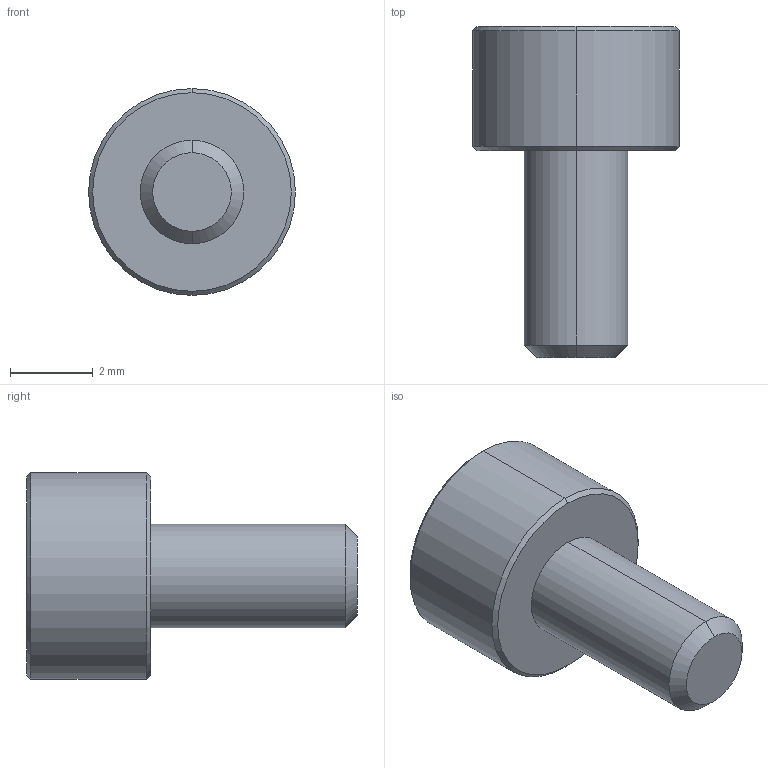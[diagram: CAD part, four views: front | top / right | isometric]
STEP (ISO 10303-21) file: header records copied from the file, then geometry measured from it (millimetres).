
FILE_DESCRIPTION (( 'STEP AP214' ), '1' );
FILE_NAME ('vite M3 x 5.STEP', '2016-02-27T09:45:58', ( '' ), ( '' ), 'SwSTEP 2.0', 'SolidWorks 2012', '' );
FILE_SCHEMA (( 'AUTOMOTIVE_DESIGN' ));
Length unit declared in the file: millimetre
Products named in the file (1): vite M3 x 5
Bounding box: 5 x 8 x 5 mm (x, y, z)
Volume: 72.1 mm3; surface area: 139.6 mm2
Topology: 1 solids, 1 shells, 20 faces, 42 edges, 26 vertices
Faces by surface type: plane 10, cone 6, cylinder 4
Entity records: 566 total; most frequent: DIRECTION 98, CARTESIAN_POINT 89, ORIENTED_EDGE 84, EDGE_CURVE 42, AXIS2_PLACEMENT_3D 35, VECTOR 28, LINE 28, VERTEX_POINT 26
